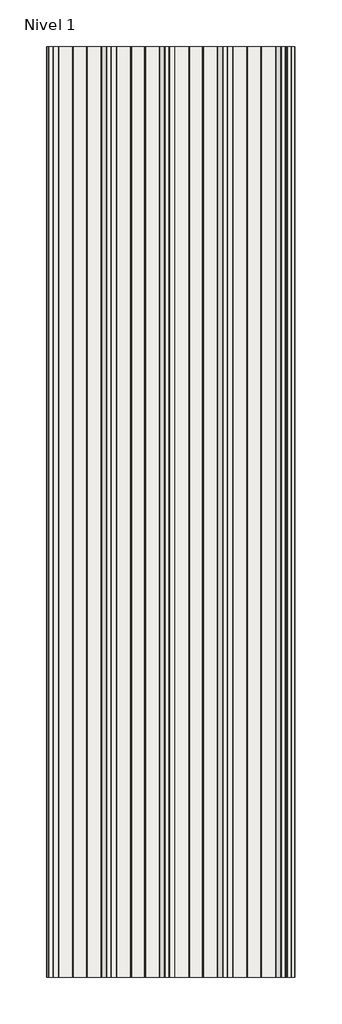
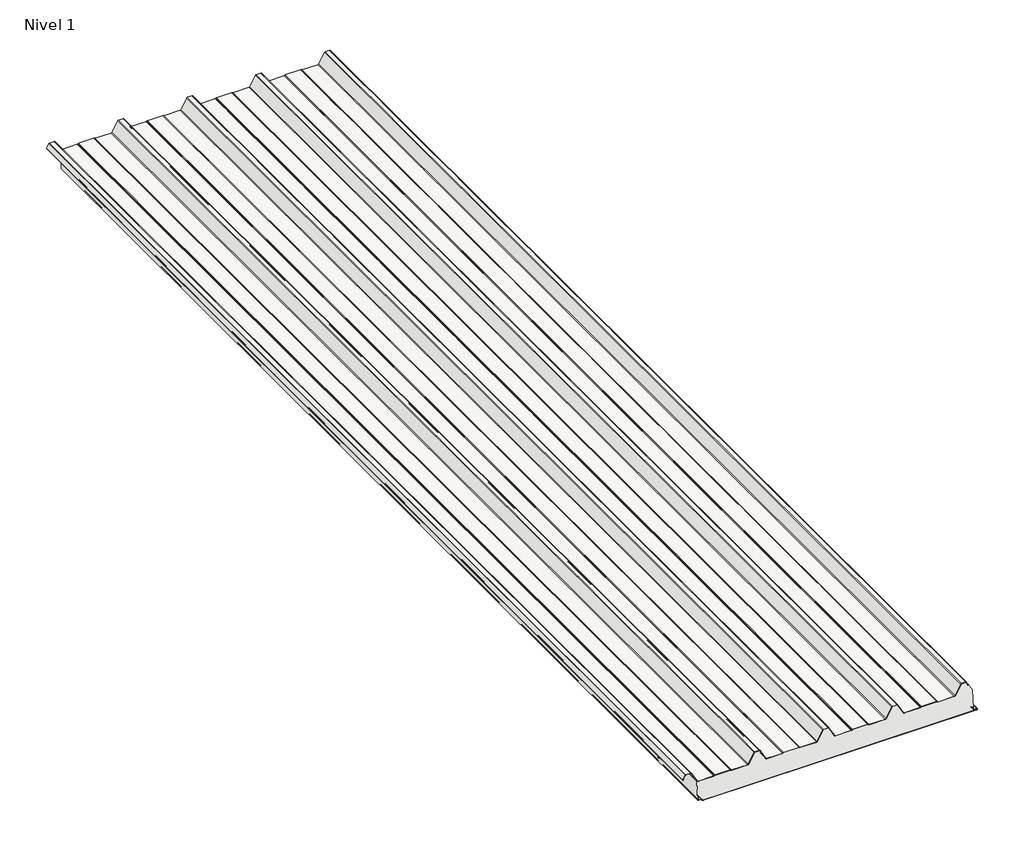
# One storey: 1 slab.
"""IFC4 building model written with IfcOpenShell, lengths in millimetres."""

from ifc_helpers import new_model, si_unit, origin, place, context, project, spatial, transform, mapped, element, save
from components import hi_quadcore_2_0_xt_dual_80_liso_grecada_d40f7e20

model = new_model("IFC4")

# Units and contexts
model_context = context("Model", 3, world=origin())
ifc_project = project(units=[si_unit("LENGTHUNIT", "METRE", prefix="MILLI")], contexts=[model_context])

# Site, building, storey
site = spatial("IfcSite", under=ifc_project)
building = spatial("IfcBuilding", under=site)
storey = spatial("IfcBuildingStorey", under=building, Name="Nivel 1", Elevation=0.0)

# Slab
placement = place(None, origin())
hi_quadcore_2_0_xt_dual_80_liso_grecada_shape = hi_quadcore_2_0_xt_dual_80_liso_grecada_d40f7e20(model_context)
element("IfcSlab", 1, ObjectType="Panel_HI_QuadCore 2.0 XT-XT DUAL_liso-grecada : HI-Quadcore 2.0 XT DUAL 80 liso-grecada", at=placement, inside=storey, context=model_context, shape_type="MappedRepresentation", body=[
    mapped(hi_quadcore_2_0_xt_dual_80_liso_grecada_shape, transform((179.0307103, 435.507424, 0.0), x_axis=(1.0, 0.0, 0.0), y_axis=(0.0, 1.0, 0.0), z_axis=(0.0, 0.0, 1.0))),
])

save(model, "model.ifc")
